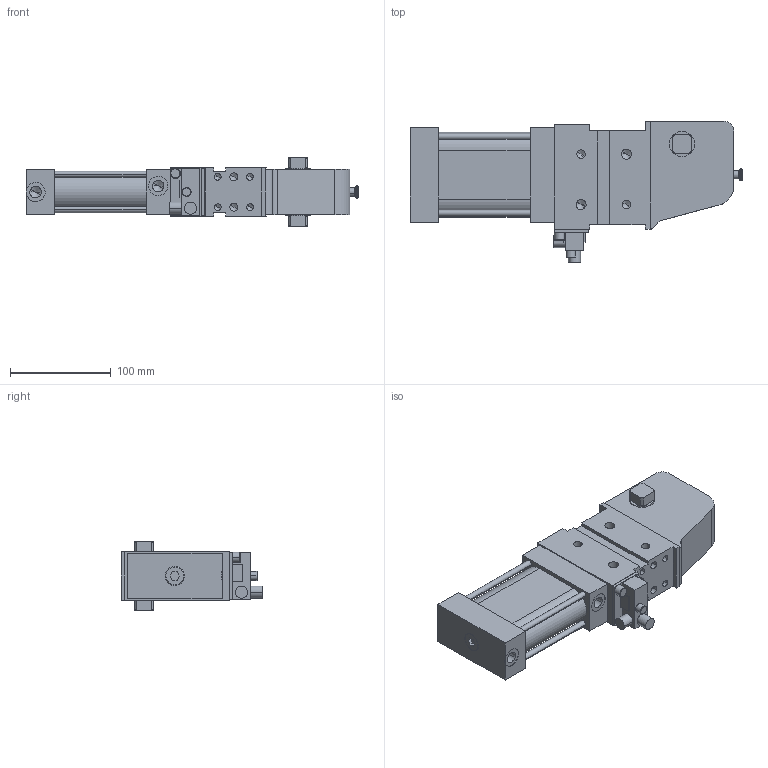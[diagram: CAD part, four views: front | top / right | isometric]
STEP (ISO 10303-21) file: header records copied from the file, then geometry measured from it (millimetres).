
FILE_DESCRIPTION (( 'STEP AP214' ), '1' );
FILE_NAME ('AKUHV50-Z00W12.STEP', '2026-07-07T17:30:03', ( '' ), ( '' ), 'SwSTEP 2.0', 'SolidWorks 2019', '' );
FILE_SCHEMA (( 'AUTOMOTIVE_DESIGN' ));
Length unit declared in the file: millimetre
Products named in the file (1): AKUHV50-Z00W12
Bounding box: 329 x 140 x 68 mm (x, y, z)
Volume: 1269444.5 mm3; surface area: 119499.7 mm2
Topology: 1 solids, 2 shells, 270 faces, 672 edges, 398 vertices
Faces by surface type: plane 100, cylinder 94, cone 64, torus 12
Entity records: 8756 total; most frequent: CARTESIAN_POINT 1428, DIRECTION 1375, ORIENTED_EDGE 1252, EDGE_CURVE 626, AXIS2_PLACEMENT_3D 515, VERTEX_POINT 398, LINE 345, VECTOR 345
